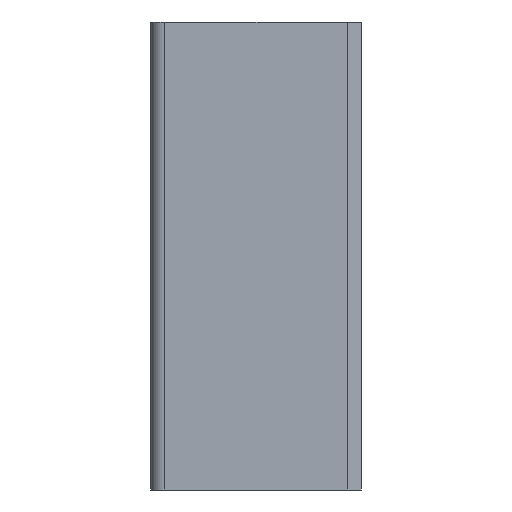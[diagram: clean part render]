
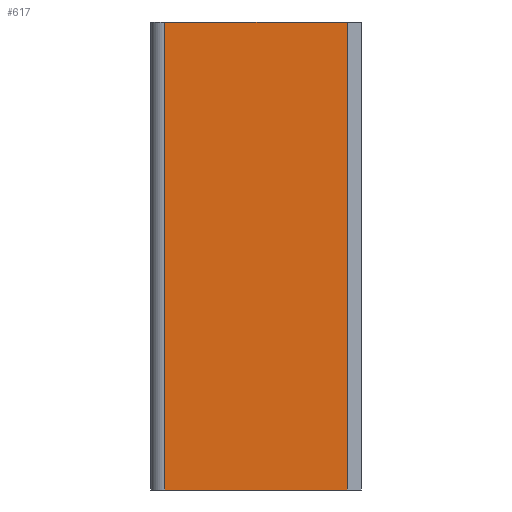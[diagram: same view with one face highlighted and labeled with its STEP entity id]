
A CAD part, left-side view. The second image highlights one B-rep face of the part: STEP entity #617.
In plain terms, the highlighted planar face has unit normal (-1, 0, 0).
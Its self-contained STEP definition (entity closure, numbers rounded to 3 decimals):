
#97=CARTESIAN_POINT('Line Origine',(0.,22.5,0.)) ;
#101=CARTESIAN_POINT('Vertex',(0.,42.,0.)) ;
#103=CARTESIAN_POINT('Vertex',(0.,3.,0.)) ;
#520=CARTESIAN_POINT('Line Origine',(0.,22.5,-100.)) ;
#524=CARTESIAN_POINT('Vertex',(0.,42.,-100.)) ;
#526=CARTESIAN_POINT('Vertex',(0.,3.,-100.)) ;
#596=CARTESIAN_POINT('Axis2P3D Location',(0.,42.,-100.)) ;
#601=CARTESIAN_POINT('Line Origine',(0.,42.,-50.)) ;
#606=CARTESIAN_POINT('Line Origine',(0.,3.,-50.)) ;
#98=DIRECTION('Vector Direction',(0.,-1.,0.)) ;
#521=DIRECTION('Vector Direction',(0.,-1.,0.)) ;
#597=DIRECTION('Axis2P3D Direction',(-1.,0.,0.)) ;
#598=DIRECTION('Axis2P3D XDirection',(0.,0.,1.)) ;
#602=DIRECTION('Vector Direction',(0.,0.,1.)) ;
#607=DIRECTION('Vector Direction',(0.,0.,1.)) ;
#599=AXIS2_PLACEMENT_3D('Plane Axis2P3D',#596,#597,#598) ;
#612=ORIENTED_EDGE('',*,*,#105,.F.) ;
#613=ORIENTED_EDGE('',*,*,#605,.F.) ;
#614=ORIENTED_EDGE('',*,*,#528,.T.) ;
#615=ORIENTED_EDGE('',*,*,#610,.T.) ;
#99=VECTOR('Line Direction',#98,1.) ;
#522=VECTOR('Line Direction',#521,1.) ;
#603=VECTOR('Line Direction',#602,1.) ;
#608=VECTOR('Line Direction',#607,1.) ;
#617=ADVANCED_FACE('A935-10015045',(#616),#600,.T.) ;
#105=EDGE_CURVE('',#102,#104,#100,.T.) ;
#528=EDGE_CURVE('',#525,#527,#523,.T.) ;
#605=EDGE_CURVE('',#525,#102,#604,.T.) ;
#610=EDGE_CURVE('',#527,#104,#609,.T.) ;
#611=EDGE_LOOP('',(#612,#613,#614,#615)) ;
#616=FACE_OUTER_BOUND('',#611,.T.) ;
#100=LINE('Line',#97,#99) ;
#523=LINE('Line',#520,#522) ;
#604=LINE('Line',#601,#603) ;
#609=LINE('Line',#606,#608) ;
#600=PLANE('Plane',#599) ;
#102=VERTEX_POINT('',#101) ;
#104=VERTEX_POINT('',#103) ;
#525=VERTEX_POINT('',#524) ;
#527=VERTEX_POINT('',#526) ;
